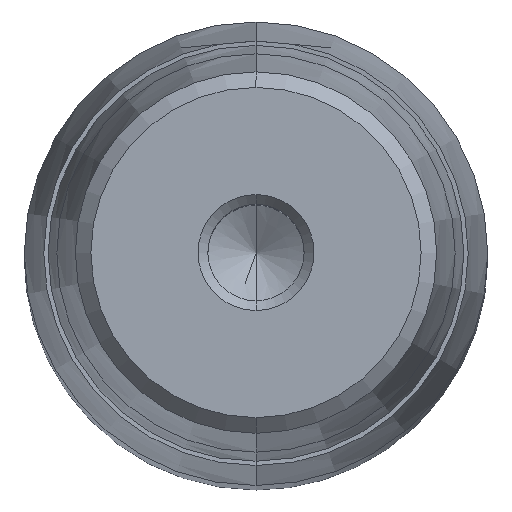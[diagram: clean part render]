
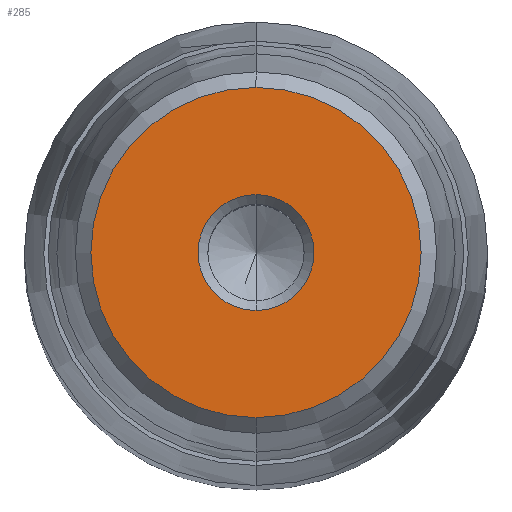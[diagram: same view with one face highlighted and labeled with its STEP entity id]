
A CAD part, top view. The second image highlights one B-rep face of the part: STEP entity #285.
In plain terms, the highlighted planar face has unit normal (0, 0, 1).
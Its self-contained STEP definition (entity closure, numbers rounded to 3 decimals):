
#164=CARTESIAN_POINT('Axis2P3D Location',(0.,0.,48.)) ;
#168=CARTESIAN_POINT('Vertex',(4.,0.,48.)) ;
#170=CARTESIAN_POINT('Vertex',(0.,-4.,48.)) ;
#173=CARTESIAN_POINT('Axis2P3D Location',(0.,0.,48.)) ;
#177=CARTESIAN_POINT('Vertex',(0.,4.,48.)) ;
#228=CARTESIAN_POINT('Axis2P3D Location',(0.,4.,48.)) ;
#233=CARTESIAN_POINT('Axis2P3D Location',(0.,0.,48.)) ;
#237=CARTESIAN_POINT('Vertex',(0.,11.4,48.)) ;
#239=CARTESIAN_POINT('Vertex',(11.4,0.,48.)) ;
#242=CARTESIAN_POINT('Axis2P3D Location',(0.,0.,48.)) ;
#246=CARTESIAN_POINT('Vertex',(-11.4,0.,48.)) ;
#249=CARTESIAN_POINT('Axis2P3D Location',(0.,0.,48.)) ;
#253=CARTESIAN_POINT('Vertex',(0.,-11.4,48.)) ;
#256=CARTESIAN_POINT('Axis2P3D Location',(0.,0.,48.)) ;
#267=CARTESIAN_POINT('Axis2P3D Location',(0.,0.,48.)) ;
#271=CARTESIAN_POINT('Vertex',(-4.,0.,48.)) ;
#274=CARTESIAN_POINT('Axis2P3D Location',(0.,0.,48.)) ;
#165=DIRECTION('Axis2P3D Direction',(-0.,0.,1.)) ;
#174=DIRECTION('Axis2P3D Direction',(-0.,0.,1.)) ;
#229=DIRECTION('Axis2P3D Direction',(0.,0.,-1.)) ;
#230=DIRECTION('Axis2P3D XDirection',(0.,1.,0.)) ;
#234=DIRECTION('Axis2P3D Direction',(0.,0.,-1.)) ;
#243=DIRECTION('Axis2P3D Direction',(0.,0.,-1.)) ;
#250=DIRECTION('Axis2P3D Direction',(0.,0.,-1.)) ;
#257=DIRECTION('Axis2P3D Direction',(0.,0.,-1.)) ;
#268=DIRECTION('Axis2P3D Direction',(0.,0.,-1.)) ;
#275=DIRECTION('Axis2P3D Direction',(0.,0.,-1.)) ;
#166=AXIS2_PLACEMENT_3D('Circle Axis2P3D',#164,#165,$) ;
#175=AXIS2_PLACEMENT_3D('Circle Axis2P3D',#173,#174,$) ;
#231=AXIS2_PLACEMENT_3D('Plane Axis2P3D',#228,#229,#230) ;
#235=AXIS2_PLACEMENT_3D('Circle Axis2P3D',#233,#234,$) ;
#244=AXIS2_PLACEMENT_3D('Circle Axis2P3D',#242,#243,$) ;
#251=AXIS2_PLACEMENT_3D('Circle Axis2P3D',#249,#250,$) ;
#258=AXIS2_PLACEMENT_3D('Circle Axis2P3D',#256,#257,$) ;
#269=AXIS2_PLACEMENT_3D('Circle Axis2P3D',#267,#268,$) ;
#276=AXIS2_PLACEMENT_3D('Circle Axis2P3D',#274,#275,$) ;
#262=ORIENTED_EDGE('',*,*,#241,.F.) ;
#263=ORIENTED_EDGE('',*,*,#248,.F.) ;
#264=ORIENTED_EDGE('',*,*,#255,.F.) ;
#265=ORIENTED_EDGE('',*,*,#260,.F.) ;
#280=ORIENTED_EDGE('',*,*,#172,.T.) ;
#281=ORIENTED_EDGE('',*,*,#273,.T.) ;
#282=ORIENTED_EDGE('',*,*,#278,.T.) ;
#283=ORIENTED_EDGE('',*,*,#179,.T.) ;
#284=FACE_BOUND('',#279,.T.) ;
#285=ADVANCED_FACE('722-32x200x233',(#266,#284),#232,.F.) ;
#167=CIRCLE('generated circle',#166,4.) ;
#176=CIRCLE('generated circle',#175,4.) ;
#236=CIRCLE('generated circle',#235,11.4) ;
#245=CIRCLE('generated circle',#244,11.4) ;
#252=CIRCLE('generated circle',#251,11.4) ;
#259=CIRCLE('generated circle',#258,11.4) ;
#270=CIRCLE('generated circle',#269,4.) ;
#277=CIRCLE('generated circle',#276,4.) ;
#172=EDGE_CURVE('',#169,#171,#167,.F.) ;
#179=EDGE_CURVE('',#178,#169,#176,.F.) ;
#241=EDGE_CURVE('',#238,#240,#236,.T.) ;
#248=EDGE_CURVE('',#247,#238,#245,.T.) ;
#255=EDGE_CURVE('',#254,#247,#252,.T.) ;
#260=EDGE_CURVE('',#240,#254,#259,.T.) ;
#273=EDGE_CURVE('',#171,#272,#270,.T.) ;
#278=EDGE_CURVE('',#272,#178,#277,.T.) ;
#261=EDGE_LOOP('',(#262,#263,#264,#265)) ;
#279=EDGE_LOOP('',(#280,#281,#282,#283)) ;
#266=FACE_OUTER_BOUND('',#261,.T.) ;
#232=PLANE('Plane',#231) ;
#169=VERTEX_POINT('',#168) ;
#171=VERTEX_POINT('',#170) ;
#178=VERTEX_POINT('',#177) ;
#238=VERTEX_POINT('',#237) ;
#240=VERTEX_POINT('',#239) ;
#247=VERTEX_POINT('',#246) ;
#254=VERTEX_POINT('',#253) ;
#272=VERTEX_POINT('',#271) ;
